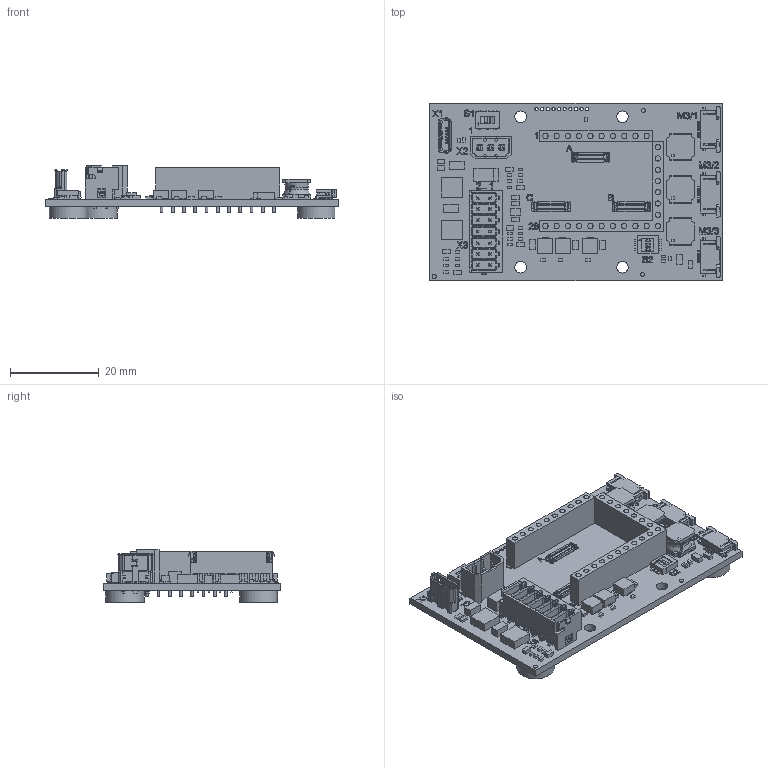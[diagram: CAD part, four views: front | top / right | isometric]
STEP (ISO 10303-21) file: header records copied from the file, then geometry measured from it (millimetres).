
FILE_DESCRIPTION(/* description */ (''),/* implementation_level */ '2;1');
FILE_NAME(/* name */ 'MC3001_BL_DC_PA2-50_HXM.stp',/* time_stamp */ '2021-01-13T14:43:28+01:00',/* author */ ('DR. FRITZ FAULHABER GmbH & Co. KG'),/* organization */ ('DR. FRITZ FAULHABER GmbH & Co. KG'),/* preprocessor_version */ 'ST-DEVELOPER v16.7',/* originating_system */ 'SIEMENS PLM Software NX 1919',/* authorisation */ '');
FILE_SCHEMA (('AUTOMOTIVE_DESIGN { 1 0 10303 214 3 1 1 1 }'));
Products named in the file (1): 012017_B_1-TP-00209
Bounding box: 66 x 40 x 11.92 mm (x, y, z)
Volume: 7993.7 mm3; surface area: 11430.6 mm2
Topology: 2 solids, 2 shells, 6812 faces, 18784 edges, 12339 vertices
Faces by surface type: plane 5413, cylinder 1086, bspline 167, extrusion 103, cone 30, torus 11, sphere 2
Full cylindrical faces by diameter (mm): 0.6 x28, 0.75 x10, 0.8 x28, 0.9 x3, 1.1 x3, 1.2 x45, 2.6 x4, 8.45 x4
Entity records: 225855 total; most frequent: CARTESIAN_POINT 52604, ORIENTED_EDGE 37110, DIRECTION 33044, EDGE_CURVE 18555, VECTOR 15534, LINE 15431, VERTEX_POINT 12275, AXIS2_PLACEMENT_3D 8755
